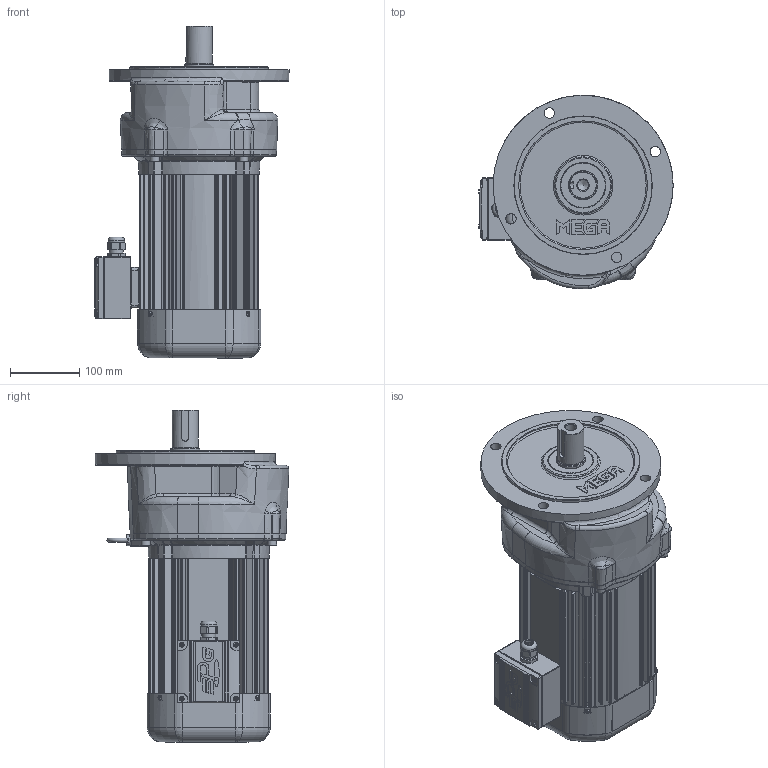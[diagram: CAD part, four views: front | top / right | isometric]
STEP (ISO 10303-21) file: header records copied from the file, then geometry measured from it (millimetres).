
FILE_DESCRIPTION(/* description */ (''),/* implementation_level */ '2;1');
FILE_NAME(/* name */ 'Z:\동력 3D 파일\PMK153-(5~100)-PA(B)150[ ]L_(3D).stp',/* time_stamp */ '2021-10-14T15:15:06+09:00',/* author */ ('jaebok'),/* organization */ (''),/* preprocessor_version */ 'ST-DEVELOPER v18.1',/* originating_system */ 'Autodesk Inventor 2022',/* authorisation */ '');
FILE_SCHEMA (('AUTOMOTIVE_DESIGN { 1 0 10303 214 3 1 1 }'));
Products named in the file (1): 부품1
Bounding box: 280.5 x 279.52 x 479.5 mm (x, y, z)
Volume: 4002518.3 mm3; surface area: 1072309.6 mm2
Topology: 2 solids, 33 shells, 3642 faces, 9086 edges, 5398 vertices
Faces by surface type: bspline 1071, plane 1013, cylinder 887, torus 361, cone 214, sphere 96
Full cylindrical faces by diameter (mm): 2 x1, 3.25 x1, 3.6 x4, 4 x21, 5 x17, 6 x9, 6.8 x5, 7 x13, 8 x15, 8.8 x4, 10 x1, 12.5 x1, 13 x4, 15 x5, 16 x1, 20 x2, 20.6 x1, 21 x1, 22 x1, 23.6 x1, 25 x1, 26 x1, 28 x2, 35 x1, 36 x1, 38 x2, 39.6 x1, 40 x1, 40.15 x1, 42 x3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
Entity records: 144698 total; most frequent: CARTESIAN_POINT 61159, ORIENTED_EDGE 17734, DIRECTION 15085, EDGE_CURVE 8867, AXIS2_PLACEMENT_3D 6209, VERTEX_POINT 5397, EDGE_LOOP 3866, FACE_OUTER_BOUND 3642
